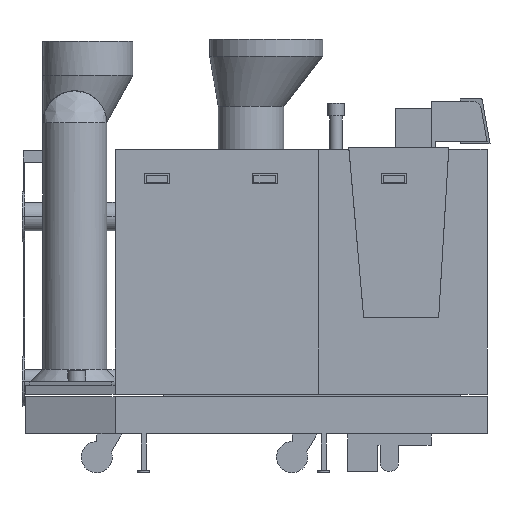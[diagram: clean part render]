
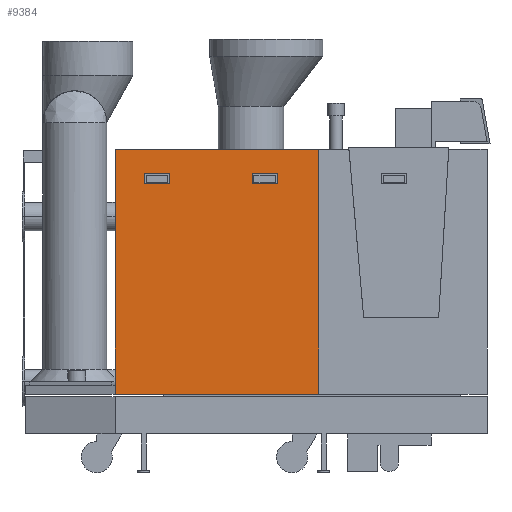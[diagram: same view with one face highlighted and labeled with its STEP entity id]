
A CAD part, front view. The second image highlights one B-rep face of the part: STEP entity #9384.
In plain terms, the highlighted planar face has unit normal (0, -1, 0).
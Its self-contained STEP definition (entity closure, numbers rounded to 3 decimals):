
#197 = LINE ( 'NONE', #218, #11611 ) ;
#215 = LINE ( 'NONE', #224, #11614 ) ;
#218 = CARTESIAN_POINT ( 'NONE',  ( 923.272, 7., 344.677 ) ) ;
#219 = LINE ( 'NONE', #227, #11615 ) ;
#220 = DIRECTION ( 'NONE',  ( -1., 0., 0. ) ) ;
#222 = LINE ( 'NONE', #239, #11616 ) ;
#224 = CARTESIAN_POINT ( 'NONE',  ( 83.372, 7., 205.677 ) ) ;
#226 = DIRECTION ( 'NONE',  ( -1., 0., 0. ) ) ;
#227 = CARTESIAN_POINT ( 'NONE',  ( -16.628, 7., 205.677 ) ) ;
#228 = DIRECTION ( 'NONE',  ( 0., 0., 1. ) ) ;
#229 = LINE ( 'NONE', #230, #11617 ) ;
#230 = CARTESIAN_POINT ( 'NONE',  ( -16.628, 7., 246.677 ) ) ;
#231 = DIRECTION ( 'NONE',  ( 1., 0., 0. ) ) ;
#232 = LINE ( 'NONE', #233, #11618 ) ;
#233 = CARTESIAN_POINT ( 'NONE',  ( 83.372, 7., 246.677 ) ) ;
#234 = DIRECTION ( 'NONE',  ( 0., 0., -1. ) ) ;
#235 = LINE ( 'NONE', #237, #11619 ) ;
#237 = CARTESIAN_POINT ( 'NONE',  ( -347.628, 7., 205.677 ) ) ;
#238 = DIRECTION ( 'NONE',  ( -1., 0., 0. ) ) ;
#239 = CARTESIAN_POINT ( 'NONE',  ( -447.628, 7., 205.677 ) ) ;
#240 = DIRECTION ( 'NONE',  ( 0., 0., 1. ) ) ;
#241 = LINE ( 'NONE', #242, #11621 ) ;
#242 = CARTESIAN_POINT ( 'NONE',  ( -447.628, 7., 246.677 ) ) ;
#243 = DIRECTION ( 'NONE',  ( 1., 0., 0. ) ) ;
#244 = LINE ( 'NONE', #245, #11622 ) ;
#245 = CARTESIAN_POINT ( 'NONE',  ( -347.628, 7., 246.677 ) ) ;
#246 = DIRECTION ( 'NONE',  ( 0., 0., -1. ) ) ;
#247 = LINE ( 'NONE', #248, #11623 ) ;
#248 = CARTESIAN_POINT ( 'NONE',  ( 923.272, 7., -635. ) ) ;
#249 = DIRECTION ( 'NONE',  ( -1., 0., 0. ) ) ;
#250 = LINE ( 'NONE', #251, #11624 ) ;
#251 = CARTESIAN_POINT ( 'NONE',  ( 249.272, 7., -635. ) ) ;
#252 = DIRECTION ( 'NONE',  ( 0., 0., 1. ) ) ;
#253 = LINE ( 'NONE', #254, #11625 ) ;
#254 = CARTESIAN_POINT ( 'NONE',  ( -564.728, 7., -635. ) ) ;
#255 = DIRECTION ( 'NONE',  ( 0., 0., 1. ) ) ;
#2256 = CARTESIAN_POINT ( 'NONE',  ( -347.628, 7., 246.677 ) ) ;
#2269 = CARTESIAN_POINT ( 'NONE',  ( 249.272, 7., 344.677 ) ) ;
#2270 = CARTESIAN_POINT ( 'NONE',  ( -564.728, 7., 344.677 ) ) ;
#6079 = EDGE_LOOP ( 'NONE', ( #14781, #14782, #14783, #14784 ) ) ;
#6081 = EDGE_LOOP ( 'NONE', ( #14773, #14774, #14775, #14776 ) ) ;
#6082 = EDGE_LOOP ( 'NONE', ( #14777, #14778, #14779, #14780 ) ) ;
#7387 = DIRECTION ( 'NONE',  ( 0., -1., 0. ) ) ;
#7394 = FACE_BOUND ( 'NONE', #6082, .T. ) ;
#7397 = CARTESIAN_POINT ( 'NONE',  ( 923.272, 7., -635. ) ) ;
#7398 = FACE_BOUND ( 'NONE', #6081, .T. ) ;
#7400 = FACE_OUTER_BOUND ( 'NONE', #6079, .T. ) ;
#7401 = PLANE ( 'NONE',  #12593 ) ;
#7403 = DIRECTION ( 'NONE',  ( 1., 0., 0. ) ) ;
#8352 = VERTEX_POINT ( 'NONE', #10859 ) ;
#8427 = VERTEX_POINT ( 'NONE', #10934 ) ;
#8428 = VERTEX_POINT ( 'NONE', #10935 ) ;
#8429 = VERTEX_POINT ( 'NONE', #10936 ) ;
#8431 = VERTEX_POINT ( 'NONE', #10938 ) ;
#8455 = VERTEX_POINT ( 'NONE', #10962 ) ;
#8457 = VERTEX_POINT ( 'NONE', #10964 ) ;
#8465 = VERTEX_POINT ( 'NONE', #10972 ) ;
#8492 = VERTEX_POINT ( 'NONE', #10999 ) ;
#9384 = ADVANCED_FACE ( 'NONE', ( #7398, #7394, #7400 ), #7401, .T. ) ;
#9563 = EDGE_CURVE ( 'NONE', #15565, #15566, #197, .T. ) ;
#9565 = EDGE_CURVE ( 'NONE', #8457, #8428, #215, .T. ) ;
#9566 = EDGE_CURVE ( 'NONE', #8428, #8431, #219, .T. ) ;
#9567 = EDGE_CURVE ( 'NONE', #8431, #8427, #229, .T. ) ;
#9568 = EDGE_CURVE ( 'NONE', #8427, #8457, #232, .T. ) ;
#9569 = EDGE_CURVE ( 'NONE', #8455, #8465, #235, .T. ) ;
#9570 = EDGE_CURVE ( 'NONE', #8465, #8352, #222, .T. ) ;
#9571 = EDGE_CURVE ( 'NONE', #8352, #15552, #241, .T. ) ;
#9572 = EDGE_CURVE ( 'NONE', #15552, #8455, #244, .T. ) ;
#9573 = EDGE_CURVE ( 'NONE', #8429, #8492, #247, .T. ) ;
#9574 = EDGE_CURVE ( 'NONE', #8429, #15565, #250, .T. ) ;
#9575 = EDGE_CURVE ( 'NONE', #8492, #15566, #253, .T. ) ;
#10859 = CARTESIAN_POINT ( 'NONE',  ( -447.628, 7., 246.677 ) ) ;
#10934 = CARTESIAN_POINT ( 'NONE',  ( 83.372, 7., 246.677 ) ) ;
#10935 = CARTESIAN_POINT ( 'NONE',  ( -16.628, 7., 205.677 ) ) ;
#10936 = CARTESIAN_POINT ( 'NONE',  ( 249.272, 7., -635. ) ) ;
#10938 = CARTESIAN_POINT ( 'NONE',  ( -16.628, 7., 246.677 ) ) ;
#10962 = CARTESIAN_POINT ( 'NONE',  ( -347.628, 7., 205.677 ) ) ;
#10964 = CARTESIAN_POINT ( 'NONE',  ( 83.372, 7., 205.677 ) ) ;
#10972 = CARTESIAN_POINT ( 'NONE',  ( -447.628, 7., 205.677 ) ) ;
#10999 = CARTESIAN_POINT ( 'NONE',  ( -564.728, 7., -635. ) ) ;
#11611 = VECTOR ( 'NONE', #220, 1000. ) ;
#11614 = VECTOR ( 'NONE', #226, 1000. ) ;
#11615 = VECTOR ( 'NONE', #228, 1000. ) ;
#11616 = VECTOR ( 'NONE', #240, 1000. ) ;
#11617 = VECTOR ( 'NONE', #231, 1000. ) ;
#11618 = VECTOR ( 'NONE', #234, 1000. ) ;
#11619 = VECTOR ( 'NONE', #238, 1000. ) ;
#11621 = VECTOR ( 'NONE', #243, 1000. ) ;
#11622 = VECTOR ( 'NONE', #246, 1000. ) ;
#11623 = VECTOR ( 'NONE', #249, 1000. ) ;
#11624 = VECTOR ( 'NONE', #252, 1000. ) ;
#11625 = VECTOR ( 'NONE', #255, 1000. ) ;
#12593 = AXIS2_PLACEMENT_3D ( 'NONE', #7397, #7387, #7403 ) ;
#14773 = ORIENTED_EDGE ( 'NONE', *, *, #9565, .T. ) ;
#14774 = ORIENTED_EDGE ( 'NONE', *, *, #9566, .T. ) ;
#14775 = ORIENTED_EDGE ( 'NONE', *, *, #9567, .T. ) ;
#14776 = ORIENTED_EDGE ( 'NONE', *, *, #9568, .T. ) ;
#14777 = ORIENTED_EDGE ( 'NONE', *, *, #9569, .T. ) ;
#14778 = ORIENTED_EDGE ( 'NONE', *, *, #9570, .T. ) ;
#14779 = ORIENTED_EDGE ( 'NONE', *, *, #9571, .T. ) ;
#14780 = ORIENTED_EDGE ( 'NONE', *, *, #9572, .T. ) ;
#14781 = ORIENTED_EDGE ( 'NONE', *, *, #9573, .F. ) ;
#14782 = ORIENTED_EDGE ( 'NONE', *, *, #9574, .T. ) ;
#14783 = ORIENTED_EDGE ( 'NONE', *, *, #9563, .T. ) ;
#14784 = ORIENTED_EDGE ( 'NONE', *, *, #9575, .F. ) ;
#15552 = VERTEX_POINT ( 'NONE', #2256 ) ;
#15565 = VERTEX_POINT ( 'NONE', #2269 ) ;
#15566 = VERTEX_POINT ( 'NONE', #2270 ) ;
